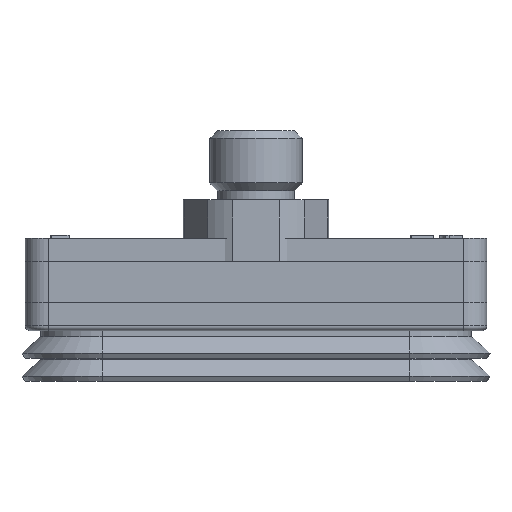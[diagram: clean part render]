
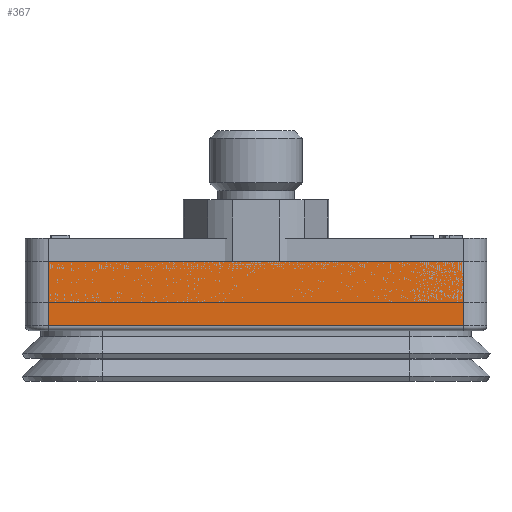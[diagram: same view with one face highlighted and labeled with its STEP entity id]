
A CAD part, front view. The second image highlights one B-rep face of the part: STEP entity #367.
In plain terms, the highlighted planar face has unit normal (0, -1, 0).
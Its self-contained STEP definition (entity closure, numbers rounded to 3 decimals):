
#367 = ADVANCED_FACE( '', ( #747 ), #748, .T. );
#747 = FACE_OUTER_BOUND( '', #1135, .T. );
#748 = PLANE( '', #1136 );
#1135 = EDGE_LOOP( '', ( #1727, #1728, #1729, #1730 ) );
#1136 = AXIS2_PLACEMENT_3D( '', #1731, #1732, #1733 );
#1727 = ORIENTED_EDGE( '', *, *, #3193, .T. );
#1728 = ORIENTED_EDGE( '', *, *, #3183, .T. );
#1729 = ORIENTED_EDGE( '', *, *, #3074, .F. );
#1730 = ORIENTED_EDGE( '', *, *, #3194, .F. );
#1731 = CARTESIAN_POINT( '', ( -13.5, -4.3, -4.5 ) );
#1732 = DIRECTION( '', ( 0., -1., 0. ) );
#1733 = DIRECTION( '', ( 0., 0., -1. ) );
#3074 = EDGE_CURVE( '', #3513, #3514, #3515, .T. );
#3183 = EDGE_CURVE( '', #3725, #3514, #3726, .T. );
#3193 = EDGE_CURVE( '', #3741, #3725, #3742, .T. );
#3194 = EDGE_CURVE( '', #3741, #3513, #3743, .T. );
#3513 = VERTEX_POINT( '', #4071 );
#3514 = VERTEX_POINT( '', #4072 );
#3515 = LINE( '', #4073, #4074 );
#3725 = VERTEX_POINT( '', #4626 );
#3726 = LINE( '', #4627, #4628 );
#3741 = VERTEX_POINT( '', #4647 );
#3742 = LINE( '', #4648, #4649 );
#3743 = LINE( '', #4650, #4651 );
#4071 = CARTESIAN_POINT( '', ( -13.5, -4.3, 0. ) );
#4072 = CARTESIAN_POINT( '', ( 13.5, -4.3, 0. ) );
#4073 = CARTESIAN_POINT( '', ( -13.5, -4.3, 0. ) );
#4074 = VECTOR( '', #5529, 1000. );
#4626 = CARTESIAN_POINT( '', ( 13.5, -4.3, -4.2 ) );
#4627 = CARTESIAN_POINT( '', ( 13.5, -4.3, -4.5 ) );
#4628 = VECTOR( '', #5641, 1000. );
#4647 = CARTESIAN_POINT( '', ( -13.5, -4.3, -4.2 ) );
#4648 = CARTESIAN_POINT( '', ( 13.5, -4.3, -4.2 ) );
#4649 = VECTOR( '', #5661, 1000. );
#4650 = CARTESIAN_POINT( '', ( -13.5, -4.3, -4.5 ) );
#4651 = VECTOR( '', #5662, 1000. );
#5529 = DIRECTION( '', ( 1., 0., 0. ) );
#5641 = DIRECTION( '', ( 0., 0., 1. ) );
#5661 = DIRECTION( '', ( 1., 0., 0. ) );
#5662 = DIRECTION( '', ( 0., 0., 1. ) );
